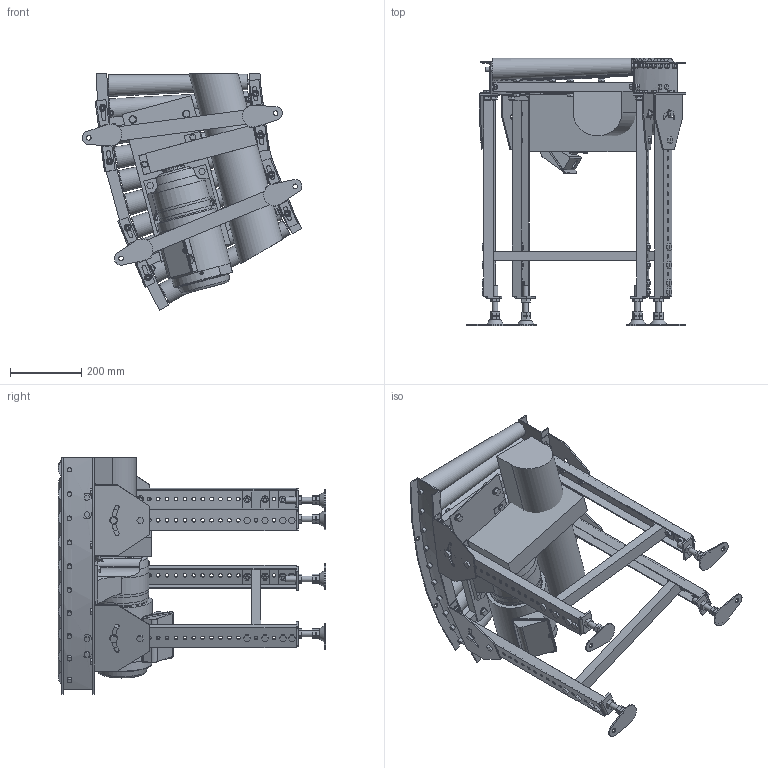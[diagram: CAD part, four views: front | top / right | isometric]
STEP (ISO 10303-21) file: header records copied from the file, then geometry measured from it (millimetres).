
FILE_DESCRIPTION( (''), '2;1');
FILE_NAME ('WEB-MCD-42-400-50-30°-C9.stp','2026-03-19T09:35:27',(''),(''),'spGate 20.6.2 (****-****-****-****)','','');
FILE_SCHEMA (('AUTOMOTIVE_DESIGN'));
Length unit declared in the file: millimetre
Products named in the file (59): WEB-MCD-42-400-50-30_-C9; TEMP_X_T-prt0; TEMP_X_T-prt1; TEMP_X_T-prt2; TEMP_X_T-prt3; TEMP_X_T-prt4; TEMP_X_T-prt5; TEMP_X_T-prt6; TEMP_X_T-prt7; TEMP_X_T-prt8; TEMP_X_T-prt9; TEMP_X_T-prt10; TEMP_X_T-prt11; TEMP_X_T-prt12; TEMP_X_T-prt13; TEMP_X_T-prt14; TEMP_X_T-prt15; TEMP_X_T-prt16; TEMP_X_T-prt17; TEMP_X_T-prt18; TEMP_X_T-prt19; TEMP_X_T-prt20; TEMP_X_T-prt21; TEMP_X_T-prt22; TEMP_X_T-prt23; TEMP_X_T-prt24; TEMP_X_T-prt25; TEMP_X_T-prt26; TEMP_X_T-prt27; TEMP_X_T-prt28; TEMP_X_T-prt29; TEMP_X_T-prt30; TEMP_X_T-prt31; TEMP_X_T-prt32; TEMP_X_T-prt33; TEMP_X_T-prt34; TEMP_X_T-prt35; TEMP_X_T-prt36; TEMP_X_T-prt37; TEMP_X_T-prt38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
Assembly tree (58 placements, depth 2):
  WEB-MCD-42-400-50-30_-C9
    TEMP_X_T-prt0
    TEMP_X_T-prt1
    TEMP_X_T-prt2
    TEMP_X_T-prt3
    TEMP_X_T-prt4
    TEMP_X_T-prt5
    TEMP_X_T-prt6
    TEMP_X_T-prt7
    TEMP_X_T-prt8
    TEMP_X_T-prt9
    TEMP_X_T-prt10
    TEMP_X_T-prt11
    TEMP_X_T-prt12
    TEMP_X_T-prt13
    TEMP_X_T-prt14
    TEMP_X_T-prt15
    TEMP_X_T-prt16
    TEMP_X_T-prt17
    TEMP_X_T-prt18
    TEMP_X_T-prt19
    TEMP_X_T-prt20
    TEMP_X_T-prt21
    TEMP_X_T-prt22
    TEMP_X_T-prt23
    TEMP_X_T-prt24
    TEMP_X_T-prt25
    TEMP_X_T-prt26
    TEMP_X_T-prt27
    TEMP_X_T-prt28
    TEMP_X_T-prt29
    TEMP_X_T-prt30
    TEMP_X_T-prt31
    TEMP_X_T-prt32
    TEMP_X_T-prt33
    TEMP_X_T-prt34
    TEMP_X_T-prt35
    TEMP_X_T-prt36
    TEMP_X_T-prt37
    TEMP_X_T-prt38
    TEMP_X_T-prt39
    TEMP_X_T-prt40
    TEMP_X_T-prt41
    TEMP_X_T-prt42
    TEMP_X_T-prt43
    TEMP_X_T-prt44
    TEMP_X_T-prt45
    TEMP_X_T-prt46
    TEMP_X_T-prt47
    TEMP_X_T-prt48
    TEMP_X_T-prt49
    TEMP_X_T-prt50
    TEMP_X_T-prt51
    TEMP_X_T-prt52
    TEMP_X_T-prt53
    TEMP_X_T-prt54
    TEMP_X_T-prt55
    TEMP_X_T-prt56
    TEMP_X_T-prt57
Bounding box: 617.4 x 749.99 x 665 mm (x, y, z)
Volume: 30548832.5 mm3; surface area: 3017253.2 mm2
Topology: 58 solids, 84 shells, 2651 faces, 6573 edges, 4283 vertices
Faces by surface type: plane 2095, cylinder 487, bspline 68, sphere 1
Full cylindrical faces by diameter (mm): 6.94 x3, 7 x1, 8 x23, 8.5 x18, 10 x56, 10.5 x100, 11 x8, 12 x24, 12.4 x10, 13 x4, 14 x4, 15.4 x4, 16 x4, 17 x4, 18 x10, 18.4 x28, 18.5 x8, 21 x8, 27 x1, 31 x1, 63 x1, 149.6 x1, 153 x1, 170.344 x1
Entity records: 139853 total; most frequent: CARTESIAN_POINT 20913, DIRECTION 13326, ORIENTED_EDGE 13146, COLOUR_RGB 9282, PRESENTATION_STYLE_ASSIGNMENT 9282, STYLED_ITEM 9282, EDGE_CURVE 6573, DRAUGHTING_PRE_DEFINED_CURVE_FONT 6573
